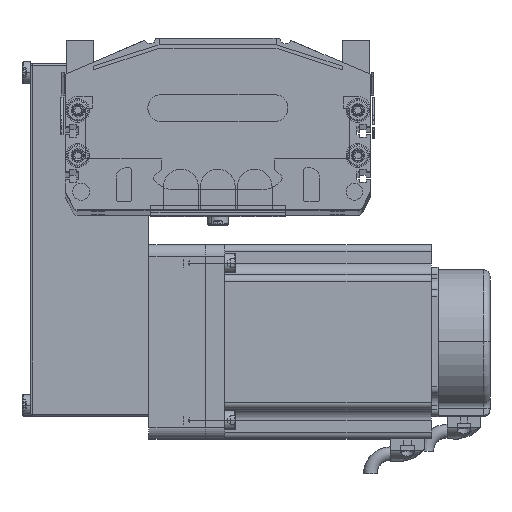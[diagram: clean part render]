
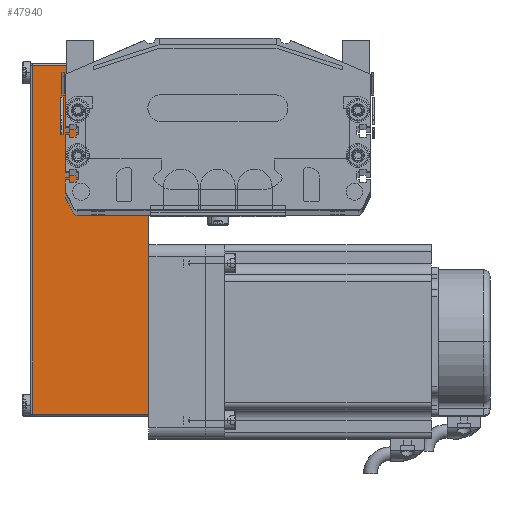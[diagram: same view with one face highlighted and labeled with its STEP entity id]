
A CAD part, top view. The second image highlights one B-rep face of the part: STEP entity #47940.
In plain terms, the highlighted planar face has unit normal (0, 0, 1) as drawn and (0, -1, 0) by its records, which use the part's own axes.
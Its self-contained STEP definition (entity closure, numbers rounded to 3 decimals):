
#1681 = CARTESIAN_POINT ( 'NONE',  ( 32., -40., 0. ) ) ;
#1682 = LINE ( 'NONE', #1681, #1797 ) ;
#1744 = CARTESIAN_POINT ( 'NONE',  ( 31., -40., 0. ) ) ;
#1796 = DIRECTION ( 'NONE',  ( 1., 0., 0. ) ) ;
#1797 = VECTOR ( 'NONE', #1796, 1000. ) ;
#1852 = CARTESIAN_POINT ( 'NONE',  ( -123.2, -40., 0. ) ) ;
#12249 = CARTESIAN_POINT ( 'NONE',  ( -123.2, -40., 52.5 ) ) ;
#12250 = LINE ( 'NONE', #12249, #12419 ) ;
#12340 = DIRECTION ( 'NONE',  ( -1., 0., 0. ) ) ;
#12341 = CARTESIAN_POINT ( 'NONE',  ( 32., -40., 51.5 ) ) ;
#12352 = LINE ( 'NONE', #12449, #12448 ) ;
#12353 = LINE ( 'NONE', #12341, #12451 ) ;
#12363 = CARTESIAN_POINT ( 'NONE',  ( -123.2, -40., 51.5 ) ) ;
#12418 = DIRECTION ( 'NONE',  ( 0., 0., -1. ) ) ;
#12419 = VECTOR ( 'NONE', #12418, 1000. ) ;
#12447 = DIRECTION ( 'NONE',  ( 0., 0., 1. ) ) ;
#12448 = VECTOR ( 'NONE', #12447, 1000. ) ;
#12449 = CARTESIAN_POINT ( 'NONE',  ( 31., -40., 52.5 ) ) ;
#12451 = VECTOR ( 'NONE', #12340, 1000. ) ;
#12483 = CARTESIAN_POINT ( 'NONE',  ( 31., -40., 51.5 ) ) ;
#12595 = DIRECTION ( 'NONE',  ( -1., 0., 0. ) ) ;
#12602 = FACE_OUTER_BOUND ( 'NONE', #47708, .T. ) ;
#12607 = PLANE ( 'NONE',  #12679 ) ;
#12679 = AXIS2_PLACEMENT_3D ( 'NONE', #12709, #12682, #12595 ) ;
#12682 = DIRECTION ( 'NONE',  ( 0., 1., 0. ) ) ;
#12709 = CARTESIAN_POINT ( 'NONE',  ( 32., -40., 52.5 ) ) ;
#38131 = VERTEX_POINT ( 'NONE', #1744 ) ;
#38146 = VERTEX_POINT ( 'NONE', #1852 ) ;
#38151 = EDGE_CURVE ( 'NONE', #38146, #38131, #1682, .T. ) ;
#47686 = ORIENTED_EDGE ( 'NONE', *, *, #38151, .T. ) ;
#47688 = ORIENTED_EDGE ( 'NONE', *, *, #47718, .T. ) ;
#47708 = EDGE_LOOP ( 'NONE', ( #47686, #47817, #47688, #47825 ) ) ;
#47712 = VERTEX_POINT ( 'NONE', #12363 ) ;
#47718 = EDGE_CURVE ( 'NONE', #47818, #47712, #12353, .T. ) ;
#47719 = EDGE_CURVE ( 'NONE', #38131, #47818, #12352, .T. ) ;
#47736 = EDGE_CURVE ( 'NONE', #47712, #38146, #12250, .T. ) ;
#47817 = ORIENTED_EDGE ( 'NONE', *, *, #47719, .T. ) ;
#47818 = VERTEX_POINT ( 'NONE', #12483 ) ;
#47825 = ORIENTED_EDGE ( 'NONE', *, *, #47736, .T. ) ;
#47940 = ADVANCED_FACE ( 'NONE', ( #12602 ), #12607, .F. ) ;
